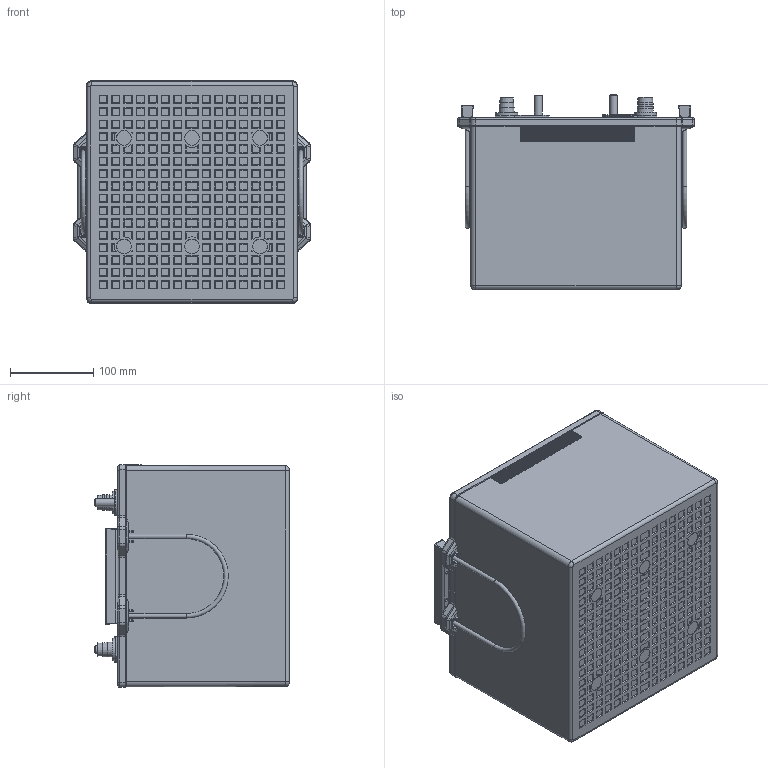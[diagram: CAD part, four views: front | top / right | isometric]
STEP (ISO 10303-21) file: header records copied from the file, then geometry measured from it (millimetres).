
FILE_DESCRIPTION (( 'STEP AP203' ), '1' );
FILE_NAME ('ODS-AGM6M.STEP', '2024-03-25T16:06:37', ( '' ), ( '' ), 'SwSTEP 2.0', 'SolidWorks 2022', '' );
FILE_SCHEMA (( 'CONFIG_CONTROL_DESIGN' ));
Length unit declared in the file: inch
Products named in the file (1): ODS-AGM6M
Bounding box: 283.31 x 232.5 x 266.85 mm (x, y, z)
Surface area: 402687.9 mm2 (no closed solid volume)
Topology: 0 solids, 23 shells, 2039 faces, 5777 edges, 3836 vertices
Faces by surface type: plane 1515, cone 209, cylinder 206, torus 49, bspline 44, sphere 16
Full cylindrical faces by diameter (mm): 1.3 x18, 3.969 x4, 5.3 x4, 8.15 x4, 8.5 x4, 9 x4, 9.53 x2, 27 x2, 63 x1, 64.6 x1
Entity records: 68219 total; most frequent: CARTESIAN_POINT 20339, ORIENTED_EDGE 10378, DIRECTION 8316, EDGE_CURVE 5663, VERTEX_POINT 3806, AXIS2_PLACEMENT_3D 2987, EDGE_LOOP 2416, VECTOR 2342
